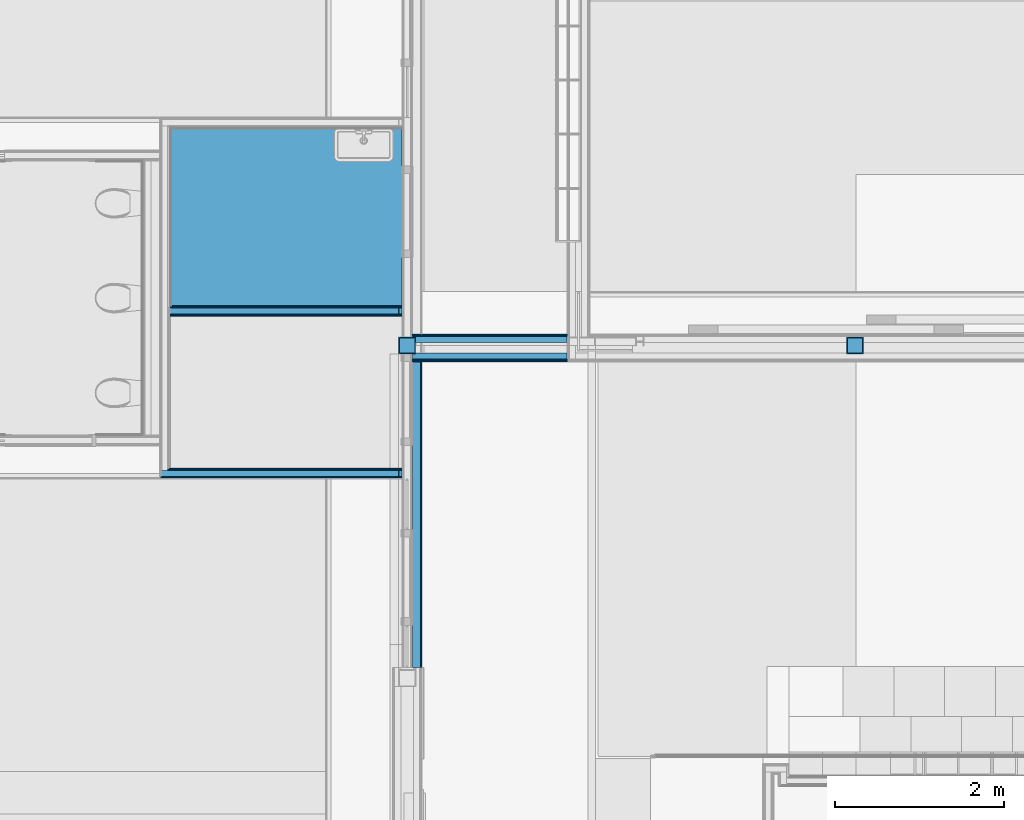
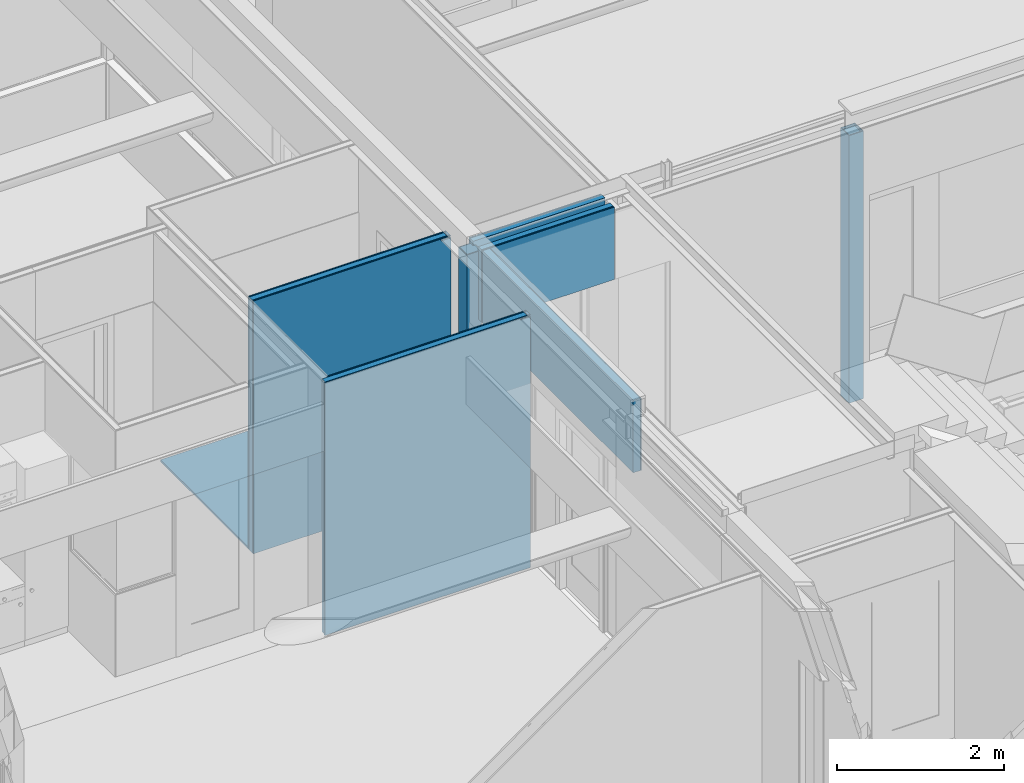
# One storey, part 56 of 165: 22 building element parts, 7 elements without a shape of their own.
"""IFC2X3 building model written with IfcOpenShell, lengths in millimetres."""

from ifc_helpers import new_model, entity, si_unit, converted_unit, derived_unit, money_unit, direction, frame, origin_with_axes, place, context, subcontext, project, spatial, faceted_brep, material, type_object, element, aggregate, save


model = new_model("IFC2X3")

# Units and contexts
model_context = context("Model", 3, precision=0.01, world=origin_with_axes(), true_north=direction((0.0, 1.0)))
body_context = subcontext(model_context, "Body", "Model", "MODEL_VIEW")
ifc_project = project(units=[si_unit("LENGTHUNIT", "METRE", prefix="MILLI"), si_unit("AREAUNIT", "SQUARE_METRE"), si_unit("VOLUMEUNIT", "CUBIC_METRE"), converted_unit("PLANEANGLEUNIT", "DEGREE", entity("IfcPlaneAngleMeasure", 0.0174532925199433), si_unit("PLANEANGLEUNIT", "RADIAN"), dimensions=[0, 0, 0, 0, 0, 0, 0]), money_unit("EUR"), converted_unit("TIMEUNIT", "Year", entity("IfcTimeMeasure", 31556926.0), si_unit("TIMEUNIT", "SECOND"), dimensions=[0, 0, 1, 0, 0, 0, 0]), si_unit("MASSUNIT", "GRAM", prefix="KILO"), si_unit("THERMODYNAMICTEMPERATUREUNIT", "DEGREE_CELSIUS"), si_unit("LUMINOUSINTENSITYUNIT", "LUMEN"), si_unit("ENERGYUNIT", "JOULE", prefix="MEGA"), derived_unit("THERMALCONDUCTANCEUNIT", [(si_unit("POWERUNIT", "WATT"), 1), (si_unit("LENGTHUNIT", "METRE"), -1), (si_unit("THERMODYNAMICTEMPERATUREUNIT", "KELVIN"), -1)]), derived_unit("SPECIFICHEATCAPACITYUNIT", [(si_unit("ENERGYUNIT", "JOULE"), 1), (si_unit("MASSUNIT", "GRAM", prefix="KILO"), -1), (si_unit("THERMODYNAMICTEMPERATUREUNIT", "KELVIN"), -1)]), derived_unit("MASSDENSITYUNIT", [(si_unit("MASSUNIT", "GRAM", prefix="KILO"), 1), (si_unit("VOLUMEUNIT", "CUBIC_METRE"), -1)])], contexts=[model_context])

# Site, building, storey
site_placement = place(None, origin_with_axes())
site = spatial("IfcSite", under=ifc_project, at=site_placement, Name="Site", CompositionType="ELEMENT")
building_placement = place(site_placement, origin_with_axes())
building = spatial("IfcBuilding", under=site, at=building_placement, Name="Naam gebouw", CompositionType="ELEMENT")
storey_placement = place(building_placement, origin_with_axes())
storey = spatial("IfcBuildingStorey", under=building, at=storey_placement, Name="Begane grond", CompositionType="ELEMENT", Elevation=0.0)

# Column, building element parts
column_type = type_object("IfcColumnType", Name="200X200X10 200 x 200", PredefinedType="COLUMN")
column_1_placement = place(storey_placement, frame((8850.000000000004, 10810.00011055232, -480.0), z_axis=(0.0, 0.0, 1.0), x_axis=(1.0, 0.0, 0.0)))
column_1 = element("IfcColumn", 1, at=column_1_placement, inside=storey, type_object=column_type, Name="28_Kolom-x", ObjectType="COLUMN")
ifc_material_1 = material(Name="Beton gewapend C")
building_element_part_1_placement = place(column_1_placement, origin_with_axes())
building_element_part_1 = element("IfcBuildingElementPart", 2, at=building_element_part_1_placement, material=ifc_material_1, Name="Beton gewapend C", context=body_context, shape_type="Brep", body=[
    faceted_brep([(-89.99999999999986, 89.99999999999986, 4050.000002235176), (89.99999999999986, 89.99999999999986, 4050.000002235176), (89.99999999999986, 89.99999999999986, 0.0), (-89.99999999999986, 89.99999999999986, 0.0), (89.99999999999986, -89.99999999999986, 4050.000002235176), (-89.99999999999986, -89.99999999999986, 4050.000002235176), (89.99999999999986, -89.99999999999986, 0.0), (-89.99999999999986, -89.99999999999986, 0.0)], [[[0, 1, 2, 3]], [[4, 1, 0, 5]], [[1, 4, 6, 2]], [[2, 6, 7, 3]], [[5, 0, 3, 7]], [[4, 5, 7, 6]]]),
    faceted_brep([(89.99999999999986, -89.99999999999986, 4075.000002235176), (89.99999999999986, 89.99999999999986, 4075.000002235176), (89.99999999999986, 89.99999999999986, 4079.999999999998), (89.99999999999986, -89.99999999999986, 4079.999999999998), (-89.99999999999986, 89.99999999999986, 4075.000002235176), (-89.99999999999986, -89.99999999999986, 4075.000002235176), (-89.99999999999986, 89.99999999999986, 4079.999999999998), (-89.99999999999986, -89.99999999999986, 4079.999999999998)], [[[0, 1, 2, 3]], [[4, 1, 0, 5]], [[1, 4, 6, 2]], [[2, 6, 7, 3]], [[5, 0, 3, 7]], [[4, 5, 7, 6]]]),
])
ifc_material_2 = material(Name="Metaal - Staal C")
building_element_part_2_placement = place(column_1_placement, origin_with_axes())
building_element_part_2 = element("IfcBuildingElementPart", 3, at=building_element_part_2_placement, material=ifc_material_2, Name="Metaal - Staal C", context=body_context, shape_type="Brep", body=[
    faceted_brep([(-99.99999999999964, -99.99999999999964, 0.0), (99.99999999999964, -99.99999999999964, 0.0), (99.99999999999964, -99.99999999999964, 4079.999999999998), (-99.99999999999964, -99.99999999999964, 4079.999999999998), (-99.99999999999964, 99.99999999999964, 0.0), (99.99999999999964, 99.99999999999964, 0.0), (-89.99999999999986, -89.99999999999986, 0.0), (89.99999999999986, -89.99999999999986, 0.0), (89.99999999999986, 89.99999999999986, 0.0), (-89.99999999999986, 89.99999999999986, 0.0), (99.99999999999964, 99.99999999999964, 4079.999999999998), (-99.99999999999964, 99.99999999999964, 4079.999999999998), (-89.99999999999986, -89.99999999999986, 4079.999999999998), (-89.99999999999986, 89.99999999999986, 4079.999999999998), (89.99999999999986, 89.99999999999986, 4079.999999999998), (89.99999999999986, -89.99999999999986, 4079.999999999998)], [[[0, 1, 2, 3]], [[0, 4, 5, 1], [6, 7, 8, 9]], [[1, 5, 10, 2]], [[3, 2, 10, 11], [12, 13, 14, 15]], [[4, 0, 3, 11]], [[5, 4, 11, 10]], [[7, 6, 12, 15]], [[8, 7, 15, 14]], [[9, 8, 14, 13]], [[6, 9, 13, 12]]]),
])
aggregate(column_1, [building_element_part_1, building_element_part_2])

# Proxy, building element parts
building_element_proxy_type_1 = type_object("IfcBuildingElementProxyType", Name="22 Metal stud 125 gips 125", PredefinedType="NOTDEFINED")
proxy_1_placement = place(storey_placement, frame((8850.000000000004, 9235.000198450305, -100.0), z_axis=(0.0, 0.0, 1.0), x_axis=(-0.9999999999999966, -8.284042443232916e-08, 0.0)))
proxy_1 = element("IfcBuildingElementProxy", 4, at=proxy_1_placement, inside=storey, type_object=building_element_proxy_type_1, Name="_Wand-x")
ifc_material_3 = material(Name="Gipsplaat")
building_element_part_3_placement = place(proxy_1_placement, origin_with_axes())
building_element_part_3 = element("IfcBuildingElementPart", 5, at=building_element_part_3_placement, material=ifc_material_3, Name="Gipsplaat", context=body_context, shape_type="Brep", body=[
    faceted_brep([(199.9999979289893, -25.00001656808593, 3695.0), (199.9999979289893, -25.00001656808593, 3670.0), (62.49999792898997, -25.0000051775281, 3670.0), (62.49999792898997, -25.0000051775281, 0.0), (2912.500400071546, -25.00024127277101, 0.0), (2912.500400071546, -25.00024127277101, 3700.0), (102.9999979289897, -25.00000853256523, 3700.0), (102.9999979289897, -25.00000853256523, 3695.0), (199.9999989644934, -12.50001656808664, 3695.0), (199.9999989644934, -12.50001656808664, 3670.0), (62.4999989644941, -12.50000517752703, 3670.0), (62.4999989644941, -12.50000517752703, 0.0), (2912.500401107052, -12.50024127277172, 0.0), (2912.500401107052, -12.50024127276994, 3700.0), (102.9999989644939, -12.50000853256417, 3700.0), (102.9999989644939, -12.50000853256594, 3695.0)], [[[0, 1, 2, 3, 4, 5, 6, 7]], [[1, 0, 8, 9]], [[10, 2, 1, 9]], [[2, 10, 11, 3]], [[12, 4, 3, 11]], [[13, 5, 4, 12]], [[14, 6, 5, 13]], [[7, 6, 14, 15]], [[0, 7, 15, 8]], [[15, 14, 13, 12, 11, 10, 9, 8]]]),
    faceted_brep([(62.4999989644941, -12.50000517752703, 3695.0), (62.49999792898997, -25.0000051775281, 3695.0), (62.49999792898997, -25.0000051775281, 3700.0), (62.4999989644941, -12.50000517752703, 3700.0), (94.99999792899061, -25.00000786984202, 3695.0), (94.99999896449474, -12.50000786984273, 3695.0), (94.99999792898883, -25.00000786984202, 3700.0), (94.99999896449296, -12.50000786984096, 3700.0)], [[[0, 1, 2, 3]], [[4, 1, 0, 5]], [[4, 6, 2, 1]], [[6, 7, 3, 2]], [[5, 0, 3, 7]], [[7, 6, 4, 5]]]),
])
building_element_part_4_placement = place(proxy_1_placement, origin_with_axes())
building_element_part_4 = element("IfcBuildingElementPart", 6, at=building_element_part_4_placement, material=ifc_material_3, Name="Gipsplaat", context=body_context, shape_type="Brep", body=[
    faceted_brep([(199.9999906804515, -112.5000165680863, 3695.0), (199.9999906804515, -112.5000165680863, 3670.0), (62.4999906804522, -112.5000051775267, 3670.0), (62.4999906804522, -112.5000051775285, 0.0), (2825.00039282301, -112.5002340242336, 0.0), (2825.00039282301, -112.5002340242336, 3700.0), (102.999990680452, -112.5000085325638, 3700.0), (102.999990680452, -112.5000085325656, 3695.0), (199.9999917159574, -100.0000165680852, 3695.0), (199.9999917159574, -100.0000165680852, 3670.0), (62.4999917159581, -100.0000051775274, 3670.0), (62.4999917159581, -100.0000051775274, 0.0), (2825.000393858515, -100.0002340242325, 0.0), (2825.000393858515, -100.0002340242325, 3700.0), (102.9999917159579, -100.0000085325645, 3700.0), (102.9999917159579, -100.0000085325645, 3695.0)], [[[0, 1, 2, 3, 4, 5, 6, 7]], [[1, 0, 8, 9]], [[10, 2, 1, 9]], [[2, 10, 11, 3]], [[12, 4, 3, 11]], [[13, 5, 4, 12]], [[14, 6, 5, 13]], [[7, 6, 14, 15]], [[0, 7, 15, 8]], [[15, 14, 13, 12, 11, 10, 9, 8]]]),
    faceted_brep([(62.4999917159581, -100.0000051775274, 3695.0), (62.4999906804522, -112.5000051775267, 3695.0), (62.4999906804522, -112.5000051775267, 3700.0), (62.4999917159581, -100.0000051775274, 3700.0), (94.99999068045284, -112.5000078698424, 3695.0), (94.99999171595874, -100.0000078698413, 3695.0), (94.99999068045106, -112.5000078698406, 3700.0), (94.99999171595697, -100.0000078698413, 3700.0)], [[[0, 1, 2, 3]], [[4, 1, 0, 5]], [[4, 6, 2, 1]], [[6, 7, 3, 2]], [[5, 0, 3, 7]], [[7, 6, 4, 5]]]),
])
building_element_part_5_placement = place(proxy_1_placement, origin_with_axes())
building_element_part_5 = element("IfcBuildingElementPart", 7, at=building_element_part_5_placement, material=ifc_material_3, Name="Gipsplaat", context=body_context, shape_type="Brep", body=[
    faceted_brep([(199.9999896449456, -125.0000165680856, 3695.0), (199.9999896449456, -125.0000165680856, 3670.0), (62.4999896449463, -125.0000051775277, 3670.0), (62.4999896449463, -125.0000051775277, 0.0), (2812.500391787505, -125.000232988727, 0.0), (2812.500391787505, -125.000232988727, 3700.0), (102.9999896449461, -125.0000085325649, 3700.0), (102.9999896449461, -125.0000085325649, 3695.0), (199.9999906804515, -112.5000165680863, 3695.0), (199.9999906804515, -112.5000165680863, 3670.0), (62.4999906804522, -112.5000051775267, 3670.0), (62.4999906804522, -112.5000051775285, 0.0), (2812.50039282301, -112.5002329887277, 0.0), (2812.50039282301, -112.5002329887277, 3700.0), (102.999990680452, -112.5000085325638, 3700.0), (102.999990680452, -112.5000085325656, 3695.0)], [[[0, 1, 2, 3, 4, 5, 6, 7]], [[1, 0, 8, 9]], [[10, 2, 1, 9]], [[2, 10, 11, 3]], [[12, 4, 3, 11]], [[13, 5, 4, 12]], [[14, 6, 5, 13]], [[7, 6, 14, 15]], [[0, 7, 15, 8]], [[15, 14, 13, 12, 11, 10, 9, 8]]]),
    faceted_brep([(62.4999906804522, -112.5000051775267, 3695.0), (62.4999896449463, -125.0000051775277, 3695.0), (62.4999896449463, -125.0000051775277, 3700.0), (62.4999906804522, -112.5000051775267, 3700.0), (94.99998964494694, -125.0000078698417, 3695.0), (94.99999068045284, -112.5000078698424, 3695.0), (94.99998964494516, -125.0000078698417, 3700.0), (94.99999068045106, -112.5000078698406, 3700.0)], [[[0, 1, 2, 3]], [[4, 1, 0, 5]], [[4, 6, 2, 1]], [[6, 7, 3, 2]], [[5, 0, 3, 7]], [[7, 6, 4, 5]]]),
])
ifc_material_4 = material(Name="ALG - LICHTE SCHEIDINGSWAND")
building_element_part_6_placement = place(proxy_1_placement, origin_with_axes())
building_element_part_6 = element("IfcBuildingElementPart", 8, at=building_element_part_6_placement, material=ifc_material_4, Name="ALG - LICHTE SCHEIDINGSWAND", context=body_context, shape_type="Brep", body=[
    faceted_brep([(199.9999917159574, -100.0000165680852, 3695.0), (199.9999917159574, -100.0000165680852, 3670.0), (62.4999917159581, -100.0000051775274, 3670.0), (62.4999917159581, -100.0000051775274, 0.0), (2900.000393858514, -100.0002402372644, 0.0), (2900.000393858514, -100.0002402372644, 3700.0), (102.9999917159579, -100.0000085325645, 3700.0), (102.9999917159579, -100.0000085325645, 3695.0), (199.9999979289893, -25.00001656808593, 3695.0), (199.9999979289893, -25.00001656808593, 3670.0), (62.49999792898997, -25.0000051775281, 3670.0), (62.49999792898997, -25.0000051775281, 0.0), (2900.000400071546, -25.0002402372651, 0.0), (2900.000400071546, -25.0002402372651, 3700.0), (102.9999979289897, -25.00000853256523, 3700.0), (102.9999979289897, -25.00000853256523, 3695.0)], [[[0, 1, 2, 3, 4, 5, 6, 7]], [[1, 0, 8, 9]], [[10, 2, 1, 9]], [[2, 10, 11, 3]], [[12, 4, 3, 11]], [[13, 5, 4, 12]], [[14, 6, 5, 13]], [[7, 6, 14, 15]], [[0, 7, 15, 8]], [[15, 14, 13, 12, 11, 10, 9, 8]]]),
    faceted_brep([(62.49999792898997, -25.0000051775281, 3695.0), (62.4999917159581, -100.0000051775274, 3695.0), (62.4999917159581, -100.0000051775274, 3700.0), (62.49999792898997, -25.0000051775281, 3700.0), (94.99999171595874, -100.0000078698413, 3695.0), (94.99999792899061, -25.00000786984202, 3695.0), (94.99999171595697, -100.0000078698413, 3700.0), (94.99999792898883, -25.00000786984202, 3700.0)], [[[0, 1, 2, 3]], [[4, 1, 0, 5]], [[4, 6, 2, 1]], [[6, 7, 3, 2]], [[5, 0, 3, 7]], [[7, 6, 4, 5]]]),
])
aggregate(proxy_1, [building_element_part_3, building_element_part_4, building_element_part_5, building_element_part_6])

proxy_2_placement = place(storey_placement, frame((5924.999598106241, 11280.00009060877, -100.0), z_axis=(0.0, 0.0, 1.0), x_axis=(1.0, 0.0, 0.0)))
proxy_2 = element("IfcBuildingElementProxy", 9, at=proxy_2_placement, inside=storey, type_object=building_element_proxy_type_1, Name="_Wand-x")
building_element_part_7_placement = place(proxy_2_placement, origin_with_axes())
building_element_part_7 = element("IfcBuildingElementPart", 10, at=building_element_part_7_placement, material=ifc_material_3, Name="Gipsplaat", context=body_context, shape_type="Brep", body=[
    faceted_brep([(2725.000401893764, 0.0, 3695.000002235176), (2725.000401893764, 0.0, 3670.000002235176), (2862.500401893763, 0.0, 3670.000002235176), (2862.500401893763, 0.0, 0.0), (124.9999997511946, 0.0, 0.0), (124.9999997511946, 0.0, 3700.0), (2822.000401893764, 0.0, 3700.0), (2822.000401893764, 0.0, 3695.000002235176), (2725.000401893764, -12.49999999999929, 3695.000002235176), (2725.000401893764, -12.49999999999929, 3670.000002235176), (2862.500401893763, -12.49999999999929, 3670.000002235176), (2862.500401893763, -12.49999999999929, 0.0), (124.9999997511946, -12.49999999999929, 0.0), (124.9999997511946, -12.49999999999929, 3700.0), (2822.000401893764, -12.49999999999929, 3700.0), (2822.000401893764, -12.49999999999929, 3695.000002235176)], [[[0, 1, 2, 3, 4, 5, 6, 7]], [[1, 0, 8, 9]], [[10, 2, 1, 9]], [[2, 10, 11, 3]], [[3, 11, 12, 4]], [[12, 13, 5, 4]], [[14, 6, 5, 13]], [[7, 6, 14, 15]], [[0, 7, 15, 8]], [[15, 14, 13, 12, 11, 10, 9, 8]]]),
    faceted_brep([(2862.500401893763, -12.49999999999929, 3695.000002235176), (2862.500401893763, 0.0, 3695.000002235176), (2862.500401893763, 0.0, 3700.0), (2862.500401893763, -12.49999999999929, 3700.0), (2830.000401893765, 0.0, 3695.000002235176), (2830.000401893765, -12.49999999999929, 3695.000002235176), (2830.000401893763, 0.0, 3700.0), (2830.000401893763, -12.49999999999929, 3700.0)], [[[0, 1, 2, 3]], [[4, 1, 0, 5]], [[4, 6, 2, 1]], [[6, 7, 3, 2]], [[5, 0, 3, 7]], [[7, 6, 4, 5]]]),
])
building_element_part_8_placement = place(proxy_2_placement, origin_with_axes())
building_element_part_8 = element("IfcBuildingElementPart", 11, at=building_element_part_8_placement, material=ifc_material_3, Name="Gipsplaat", context=body_context, shape_type="Brep", body=[
    faceted_brep([(2725.000401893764, -12.49999999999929, 3695.000002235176), (2725.000401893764, -12.49999999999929, 3670.000002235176), (2862.500401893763, -12.49999999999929, 3670.000002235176), (2862.500401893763, -12.49999999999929, 0.0), (124.9999997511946, -12.49999999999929, 0.0), (124.9999997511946, -12.49999999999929, 3700.0), (2822.000401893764, -12.49999999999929, 3700.0), (2822.000401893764, -12.49999999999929, 3695.000002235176), (2725.000401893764, -25.00000000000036, 3695.000002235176), (2725.000401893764, -25.00000000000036, 3670.000002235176), (2862.500401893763, -25.00000000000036, 3670.000002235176), (2862.500401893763, -25.00000000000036, 0.0), (124.9999997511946, -25.00000000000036, 0.0), (124.9999997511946, -25.00000000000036, 3700.0), (2822.000401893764, -25.00000000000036, 3700.0), (2822.000401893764, -25.00000000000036, 3695.000002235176)], [[[0, 1, 2, 3, 4, 5, 6, 7]], [[1, 0, 8, 9]], [[10, 2, 1, 9]], [[2, 10, 11, 3]], [[3, 11, 12, 4]], [[12, 13, 5, 4]], [[14, 6, 5, 13]], [[7, 6, 14, 15]], [[0, 7, 15, 8]], [[15, 14, 13, 12, 11, 10, 9, 8]]]),
    faceted_brep([(2862.500401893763, -25.00000000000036, 3695.000002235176), (2862.500401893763, -12.49999999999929, 3695.000002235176), (2862.500401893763, -12.49999999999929, 3700.0), (2862.500401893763, -25.00000000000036, 3700.0), (2830.000401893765, -12.49999999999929, 3695.000002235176), (2830.000401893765, -25.00000000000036, 3695.000002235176), (2830.000401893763, -12.49999999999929, 3700.0), (2830.000401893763, -25.00000000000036, 3700.0)], [[[0, 1, 2, 3]], [[4, 1, 0, 5]], [[4, 6, 2, 1]], [[6, 7, 3, 2]], [[5, 0, 3, 7]], [[7, 6, 4, 5]]]),
])
building_element_part_9_placement = place(proxy_2_placement, origin_with_axes())
building_element_part_9 = element("IfcBuildingElementPart", 12, at=building_element_part_9_placement, material=ifc_material_3, Name="Gipsplaat", context=body_context, shape_type="Brep", body=[
    faceted_brep([(2725.000401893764, -99.99999999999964, 3695.000002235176), (2725.000401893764, -99.99999999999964, 3670.000002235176), (2862.500401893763, -99.99999999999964, 3670.000002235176), (2862.500401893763, -99.99999999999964, 0.0), (124.9999997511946, -99.99999999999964, 0.0), (124.9999997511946, -99.99999999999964, 3700.0), (2822.000401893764, -99.99999999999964, 3700.0), (2822.000401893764, -99.99999999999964, 3695.000002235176), (2725.000401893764, -112.4999999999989, 3695.000002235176), (2725.000401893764, -112.4999999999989, 3670.000002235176), (2862.500401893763, -112.4999999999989, 3670.000002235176), (2862.500401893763, -112.4999999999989, 0.0), (124.9999997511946, -112.5000000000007, 0.0), (124.9999997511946, -112.4999999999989, 3700.0), (2822.000401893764, -112.4999999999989, 3700.0), (2822.000401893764, -112.4999999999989, 3695.000002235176)], [[[0, 1, 2, 3, 4, 5, 6, 7]], [[1, 0, 8, 9]], [[10, 2, 1, 9]], [[2, 10, 11, 3]], [[3, 11, 12, 4]], [[12, 13, 5, 4]], [[14, 6, 5, 13]], [[7, 6, 14, 15]], [[0, 7, 15, 8]], [[15, 14, 13, 12, 11, 10, 9, 8]]]),
    faceted_brep([(2862.500401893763, -112.4999999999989, 3695.000002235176), (2862.500401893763, -99.99999999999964, 3695.000002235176), (2862.500401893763, -99.99999999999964, 3700.0), (2862.500401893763, -112.4999999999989, 3700.0), (2830.000401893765, -99.99999999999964, 3695.000002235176), (2830.000401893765, -112.4999999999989, 3695.000002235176), (2830.000401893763, -99.99999999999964, 3700.0), (2830.000401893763, -112.4999999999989, 3700.0)], [[[0, 1, 2, 3]], [[4, 1, 0, 5]], [[4, 6, 2, 1]], [[6, 7, 3, 2]], [[5, 0, 3, 7]], [[7, 6, 4, 5]]]),
])
building_element_part_10_placement = place(proxy_2_placement, origin_with_axes())
building_element_part_10 = element("IfcBuildingElementPart", 13, at=building_element_part_10_placement, material=ifc_material_4, Name="ALG - LICHTE SCHEIDINGSWAND", context=body_context, shape_type="Brep", body=[
    faceted_brep([(2725.000401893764, -25.00000000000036, 3695.000002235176), (2725.000401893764, -25.00000000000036, 3670.000002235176), (2862.500401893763, -25.00000000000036, 3670.000002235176), (2862.500401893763, -25.00000000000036, 0.0), (124.9999997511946, -25.00000000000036, 0.0), (124.9999997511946, -25.00000000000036, 3700.0), (2822.000401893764, -25.00000000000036, 3700.0), (2822.000401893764, -25.00000000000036, 3695.000002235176), (2725.000401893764, -99.99999999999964, 3695.000002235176), (2725.000401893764, -99.99999999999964, 3670.000002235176), (2862.500401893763, -99.99999999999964, 3670.000002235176), (2862.500401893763, -99.99999999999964, 0.0), (124.9999997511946, -99.99999999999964, 0.0), (124.9999997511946, -99.99999999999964, 3700.0), (2822.000401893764, -99.99999999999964, 3700.0), (2822.000401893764, -99.99999999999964, 3695.000002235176)], [[[0, 1, 2, 3, 4, 5, 6, 7]], [[1, 0, 8, 9]], [[10, 2, 1, 9]], [[2, 10, 11, 3]], [[3, 11, 12, 4]], [[12, 13, 5, 4]], [[14, 6, 5, 13]], [[7, 6, 14, 15]], [[0, 7, 15, 8]], [[15, 14, 13, 12, 11, 10, 9, 8]]]),
    faceted_brep([(2862.500401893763, -99.99999999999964, 3695.000002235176), (2862.500401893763, -25.00000000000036, 3695.000002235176), (2862.500401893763, -25.00000000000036, 3700.0), (2862.500401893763, -99.99999999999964, 3700.0), (2830.000401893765, -25.00000000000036, 3695.000002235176), (2830.000401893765, -99.99999999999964, 3695.000002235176), (2830.000401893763, -25.00000000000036, 3700.0), (2830.000401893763, -99.99999999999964, 3700.0)], [[[0, 1, 2, 3]], [[4, 1, 0, 5]], [[4, 6, 2, 1]], [[6, 7, 3, 2]], [[5, 0, 3, 7]], [[7, 6, 4, 5]]]),
])
building_element_part_11_placement = place(proxy_2_placement, origin_with_axes())
building_element_part_11 = element("IfcBuildingElementPart", 14, at=building_element_part_11_placement, material=ifc_material_3, Name="Gipsplaat", context=body_context, shape_type="Brep", body=[
    faceted_brep([(2725.000401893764, -112.4999999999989, 3695.000002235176), (2725.000401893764, -112.4999999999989, 3670.000002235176), (2862.500401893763, -112.4999999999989, 3670.000002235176), (2862.500401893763, -112.4999999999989, 0.0), (124.9999997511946, -112.5000000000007, 0.0), (124.9999997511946, -112.4999999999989, 3700.0), (2822.000401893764, -112.4999999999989, 3700.0), (2822.000401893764, -112.4999999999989, 3695.000002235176), (2725.000401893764, -125.0, 3695.000002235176), (2725.000401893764, -125.0, 3670.000002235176), (2862.500401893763, -125.0, 3670.000002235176), (2862.500401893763, -125.0, 0.0), (124.9999997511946, -125.0, 0.0), (124.9999997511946, -125.0, 3700.0), (2822.000401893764, -125.0, 3700.0), (2822.000401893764, -125.0, 3695.000002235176)], [[[0, 1, 2, 3, 4, 5, 6, 7]], [[1, 0, 8, 9]], [[10, 2, 1, 9]], [[2, 10, 11, 3]], [[3, 11, 12, 4]], [[12, 13, 5, 4]], [[14, 6, 5, 13]], [[7, 6, 14, 15]], [[0, 7, 15, 8]], [[15, 14, 13, 12, 11, 10, 9, 8]]]),
    faceted_brep([(2862.500401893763, -125.0, 3695.000002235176), (2862.500401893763, -112.4999999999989, 3695.000002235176), (2862.500401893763, -112.4999999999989, 3700.0), (2862.500401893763, -125.0, 3700.0), (2830.000401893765, -112.4999999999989, 3695.000002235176), (2830.000401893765, -125.0, 3695.000002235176), (2830.000401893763, -112.4999999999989, 3700.0), (2830.000401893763, -125.0, 3700.0)], [[[0, 1, 2, 3]], [[4, 1, 0, 5]], [[4, 6, 2, 1]], [[6, 7, 3, 2]], [[5, 0, 3, 7]], [[7, 6, 4, 5]]]),
])
aggregate(proxy_2, [building_element_part_7, building_element_part_8, building_element_part_9, building_element_part_10, building_element_part_11])

# Column, building element parts
column_2_placement = place(storey_placement, frame((14140.00182867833, 10810.00011055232, -425.0000000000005), z_axis=(0.0, 0.0, 1.0), x_axis=(1.0, 0.0, 0.0)))
column_2 = element("IfcColumn", 15, at=column_2_placement, inside=storey, type_object=column_type, Name="28_Kolom-x", ObjectType="COLUMN")
building_element_part_12_placement = place(column_2_placement, origin_with_axes())
building_element_part_12 = element("IfcBuildingElementPart", 16, at=building_element_part_12_placement, material=ifc_material_2, Name="Metaal - Staal C", context=body_context, shape_type="Brep", body=[
    faceted_brep([(-99.99999999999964, -99.99999999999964, 0.0), (99.99999999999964, -99.99999999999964, 0.0), (99.99999999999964, -99.99999999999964, 3919.999999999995), (-99.99999999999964, -99.99999999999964, 3919.999999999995), (-99.99999999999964, 99.99999999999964, 0.0), (99.99999999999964, 99.99999999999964, 0.0), (-89.99999999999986, -89.99999999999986, 0.0), (89.99999999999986, -89.99999999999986, 0.0), (89.99999999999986, 89.99999999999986, 0.0), (-89.99999999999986, 89.99999999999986, 0.0), (99.99999999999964, 99.99999999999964, 3919.999999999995), (-99.99999999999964, 99.99999999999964, 3919.999999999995), (-89.99999999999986, -89.99999999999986, 3919.999999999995), (-89.99999999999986, 89.99999999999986, 3919.999999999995), (89.99999999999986, 89.99999999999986, 3919.999999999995), (89.99999999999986, -89.99999999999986, 3919.999999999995)], [[[0, 1, 2, 3]], [[0, 4, 5, 1], [6, 7, 8, 9]], [[1, 5, 10, 2]], [[3, 2, 10, 11], [12, 13, 14, 15]], [[4, 0, 3, 11]], [[5, 4, 11, 10]], [[7, 6, 12, 15]], [[8, 7, 15, 14]], [[9, 8, 14, 13]], [[6, 9, 13, 12]]]),
])
building_element_part_13_placement = place(column_2_placement, origin_with_axes())
building_element_part_13 = element("IfcBuildingElementPart", 17, at=building_element_part_13_placement, material=ifc_material_1, Name="Beton gewapend C", context=body_context, shape_type="Brep", body=[
    faceted_brep([(-89.99999999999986, 89.99999999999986, 3889.999999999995), (89.99999999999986, 89.99999999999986, 3889.999999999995), (89.99999999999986, 89.99999999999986, 325.0000000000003), (9.998171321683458, 89.99999999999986, 325.0000000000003), (9.998171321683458, 89.99999999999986, 65.00000000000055), (89.99999999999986, 89.99999999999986, 65.00000000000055), (89.99999999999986, 89.99999999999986, 0.0), (-89.99999999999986, 89.99999999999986, 0.0), (89.99999999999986, -89.99999999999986, 3889.999999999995), (-89.99999999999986, -89.99999999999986, 3889.999999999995), (89.99999999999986, -89.99999999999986, 325.0000000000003), (9.998171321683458, -89.99999999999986, 325.0000000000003), (9.998171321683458, -89.99999999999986, 65.00000000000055), (89.99999999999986, -89.99999999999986, 65.00000000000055), (89.99999999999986, -89.99999999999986, 0.0), (-89.99999999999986, -89.99999999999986, 0.0)], [[[0, 1, 2, 3, 4, 5, 6, 7]], [[8, 1, 0, 9]], [[1, 8, 10, 2]], [[11, 3, 2, 10]], [[12, 4, 3, 11]], [[12, 13, 5, 4]], [[6, 5, 13, 14]], [[6, 14, 15, 7]], [[9, 0, 7, 15]], [[8, 9, 15, 14, 13, 12, 11, 10]]]),
])
aggregate(column_2, [building_element_part_12, building_element_part_13])

# Proxy, building element parts
building_element_proxy_type_2 = type_object("IfcBuildingElementProxyType", Name="22 Metal stud 112.5 plafond 113", PredefinedType="NOTDEFINED")
proxy_3_placement = place(storey_placement, frame((9025.0, 10674.99881672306, 2600.0), z_axis=(0.0, 0.0, 1.0), x_axis=(0.0, -1.0, 0.0)))
proxy_3 = element("IfcBuildingElementProxy", 18, at=proxy_3_placement, inside=storey, type_object=building_element_proxy_type_2, Name="_Wand-x")
building_element_part_14_placement = place(proxy_3_placement, origin_with_axes())
building_element_part_14 = element("IfcBuildingElementPart", 19, at=building_element_part_14_placement, material=ifc_material_3, Name="Gipsplaat", context=body_context, shape_type="Brep", body=[
    faceted_brep([(3669.998816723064, -12.50000000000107, 1060.0), (3669.998816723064, 0.0, 1060.0), (42.4999999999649, 0.0, 1060.0), (42.4999999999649, -12.49999999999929, 1060.0), (3669.998816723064, -12.50000000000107, 0.0), (3669.998816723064, 0.0, 0.0), (42.4999999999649, 0.0, 0.0), (42.4999999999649, -12.49999999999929, 0.0)], [[[0, 1, 2, 3]], [[0, 4, 5, 1]], [[1, 5, 6, 2]], [[3, 2, 6, 7]], [[4, 0, 3, 7]], [[5, 4, 7, 6]]]),
])
building_element_part_15_placement = place(proxy_3_placement, origin_with_axes())
building_element_part_15 = element("IfcBuildingElementPart", 20, at=building_element_part_15_placement, material=ifc_material_4, Name="ALG - LICHTE SCHEIDINGSWAND", context=body_context, shape_type="Brep", body=[
    faceted_brep([(3669.998816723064, -112.5000000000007, 1060.0), (3669.998816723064, -12.50000000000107, 1060.0), (54.99999999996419, -12.49999999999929, 1060.0), (54.99999999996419, -112.5000000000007, 1060.0), (3669.998816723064, -112.5000000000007, 0.0), (3669.998816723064, -12.50000000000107, 0.0), (54.99999999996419, -12.49999999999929, 0.0), (54.99999999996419, -112.5000000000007, 0.0)], [[[0, 1, 2, 3]], [[0, 4, 5, 1]], [[1, 5, 6, 2]], [[3, 2, 6, 7]], [[4, 0, 3, 7]], [[5, 4, 7, 6]]]),
])
aggregate(proxy_3, [building_element_part_14, building_element_part_15])

building_element_proxy_type_3 = type_object("IfcBuildingElementProxyType", Name="22 Metal stud 325 325", PredefinedType="NOTDEFINED")
proxy_4_placement = place(storey_placement, frame((10740.00006286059, 10619.9988167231, 2600.0), z_axis=(0.0, 0.0, 1.0), x_axis=(-1.0, 0.0, 0.0)))
proxy_4 = element("IfcBuildingElementProxy", 21, at=proxy_4_placement, inside=storey, type_object=building_element_proxy_type_3, Name="_Wand-x")
building_element_part_16_placement = place(proxy_4_placement, origin_with_axes())
building_element_part_16 = element("IfcBuildingElementPart", 22, at=building_element_part_16_placement, material=ifc_material_3, Name="Gipsplaat", context=body_context, shape_type="Brep", body=[
    faceted_brep([(1715.000062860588, 0.0, 1060.0), (0.0, 0.0, 1060.0), (0.0, -12.49999999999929, 1060.0), (1715.000062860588, -12.49999999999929, 1060.0), (1715.000062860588, 0.0, 0.0), (0.0, 0.0, 0.0), (0.0, -12.49999999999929, 0.0), (1715.000062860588, -12.49999999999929, 0.0)], [[[0, 1, 2, 3]], [[4, 5, 1, 0]], [[2, 1, 5, 6]], [[3, 2, 6, 7]], [[3, 7, 4, 0]], [[7, 6, 5, 4]]]),
    faceted_brep([(1827.500000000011, -12.49999999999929, 1060.0), (1827.500000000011, 0.0, 1060.0), (1727.500062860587, 0.0, 1060.0), (1727.500062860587, -12.49999999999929, 1060.0), (1827.500000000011, -12.49999999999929, 0.0), (1827.500000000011, 0.0, 0.0), (1727.500062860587, 0.0, 0.0), (1727.500062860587, -12.49999999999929, 0.0)], [[[0, 1, 2, 3]], [[0, 4, 5, 1]], [[1, 5, 6, 2]], [[3, 2, 6, 7]], [[4, 0, 3, 7]], [[5, 4, 7, 6]]]),
])
building_element_part_17_placement = place(proxy_4_placement, origin_with_axes())
building_element_part_17 = element("IfcBuildingElementPart", 23, at=building_element_part_17_placement, material=ifc_material_3, Name="Gipsplaat", context=body_context, shape_type="Brep", body=[
    faceted_brep([(1827.500000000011, -25.00000000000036, 1060.0), (1827.500000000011, -12.49999999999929, 1060.0), (0.0, -12.49999999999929, 1060.0), (0.0, -25.00000000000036, 1060.0), (1827.500000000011, -25.00000000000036, 0.0), (1827.500000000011, -12.49999999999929, 0.0), (0.0, -12.49999999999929, 0.0), (0.0, -25.00000000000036, 0.0)], [[[0, 1, 2, 3]], [[0, 4, 5, 1]], [[1, 5, 6, 2]], [[3, 2, 6, 7]], [[4, 0, 3, 7]], [[5, 4, 7, 6]]]),
])
building_element_part_18_placement = place(proxy_4_placement, origin_with_axes())
building_element_part_18 = element("IfcBuildingElementPart", 24, at=building_element_part_18_placement, material=ifc_material_4, Name="ALG - LICHTE SCHEIDINGSWAND", context=body_context, shape_type="Brep", body=[
    faceted_brep([(1827.500000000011, -99.99999999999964, 1060.0), (1827.500000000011, -25.00000000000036, 1060.0), (0.0, -25.00000000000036, 1060.0), (0.0, -99.99999999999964, 1060.0), (1827.500000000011, -99.99999999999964, 0.0), (1827.500000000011, -25.00000000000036, 0.0), (0.0, -25.00000000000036, 0.0), (0.0, -99.99999999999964, 0.0)], [[[0, 1, 2, 3]], [[0, 4, 5, 1]], [[1, 5, 6, 2]], [[3, 2, 6, 7]], [[4, 0, 3, 7]], [[5, 4, 7, 6]]]),
])
building_element_part_19_placement = place(proxy_4_placement, origin_with_axes())
building_element_part_19 = element("IfcBuildingElementPart", 25, at=building_element_part_19_placement, material=ifc_material_4, Name="ALG - LICHTE SCHEIDINGSWAND", context=body_context, shape_type="Brep", body=[
    faceted_brep([(1827.500000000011, -300.0000000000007, 1060.0), (1827.500000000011, -224.9999999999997, 1060.0), (0.0, -224.9999999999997, 1060.0), (0.0, -300.0000000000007, 1060.0), (1827.500000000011, -300.0000000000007, 0.0), (1827.500000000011, -224.9999999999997, 0.0), (0.0, -224.9999999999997, 0.0), (0.0, -300.0000000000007, 0.0)], [[[0, 1, 2, 3]], [[0, 4, 5, 1]], [[1, 5, 6, 2]], [[3, 2, 6, 7]], [[4, 0, 3, 7]], [[5, 4, 7, 6]]]),
])
building_element_part_20_placement = place(proxy_4_placement, origin_with_axes())
building_element_part_20 = element("IfcBuildingElementPart", 26, at=building_element_part_20_placement, material=ifc_material_3, Name="Gipsplaat", context=body_context, shape_type="Brep", body=[
    faceted_brep([(1715.000062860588, -312.5, 1060.0), (0.0, -312.5, 1060.0), (0.0, -324.9999999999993, 1060.0), (1715.000062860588, -324.9999999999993, 1060.0), (1715.000062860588, -312.5, 0.0), (0.0, -312.5, 0.0), (0.0, -324.9999999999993, 0.0), (1715.000062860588, -324.9999999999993, 0.0)], [[[0, 1, 2, 3]], [[4, 5, 1, 0]], [[2, 1, 5, 6]], [[3, 2, 6, 7]], [[3, 7, 4, 0]], [[7, 6, 5, 4]]]),
    faceted_brep([(1827.500000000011, -324.9999999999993, 1060.0), (1827.500000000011, -312.5, 1060.0), (1727.500062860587, -312.5, 1060.0), (1727.500062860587, -324.9999999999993, 1060.0), (1827.500000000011, -324.9999999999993, 0.0), (1827.500000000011, -312.5, 0.0), (1727.500062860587, -312.5, 0.0), (1727.500062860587, -324.9999999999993, 0.0)], [[[0, 1, 2, 3]], [[0, 4, 5, 1]], [[1, 5, 6, 2]], [[3, 2, 6, 7]], [[4, 0, 3, 7]], [[5, 4, 7, 6]]]),
])
building_element_part_21_placement = place(proxy_4_placement, origin_with_axes())
building_element_part_21 = element("IfcBuildingElementPart", 27, at=building_element_part_21_placement, material=ifc_material_3, Name="Gipsplaat", context=body_context, shape_type="Brep", body=[
    faceted_brep([(1827.500000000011, -312.5, 1060.0), (1827.500000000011, -300.0000000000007, 1060.0), (0.0, -300.0000000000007, 1060.0), (0.0, -312.5, 1060.0), (1827.500000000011, -312.5, 0.0), (1827.500000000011, -300.0000000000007, 0.0), (0.0, -300.0000000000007, 0.0), (0.0, -312.5, 0.0)], [[[0, 1, 2, 3]], [[0, 4, 5, 1]], [[1, 5, 6, 2]], [[3, 2, 6, 7]], [[4, 0, 3, 7]], [[5, 4, 7, 6]]]),
])
aggregate(proxy_4, [building_element_part_16, building_element_part_17, building_element_part_18, building_element_part_19, building_element_part_20, building_element_part_21])

# Slab, building element part
slab_type = type_object("IfcSlabType", Name="43 Zwevende dekvloer 100", PredefinedType="NOTDEFINED")
slab_placement = place(storey_placement, frame((6049.999597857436, 13380.0002642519, 0.0), z_axis=(0.0, 0.0, 1.0), x_axis=(1.0, 0.0, 0.0)))
slab = element("IfcSlab", 28, at=slab_placement, inside=storey, type_object=slab_type, Name="_Vloer-x", PredefinedType="NOTDEFINED")
ifc_material_5 = material(Name="Isolatie - XPS zwevende dekvloer")
building_element_part_22_placement = place(slab_placement, origin_with_axes())
building_element_part_22 = element("IfcBuildingElementPart", 29, at=building_element_part_22_placement, material=ifc_material_5, Name="Isolatie - XPS zwevende dekvloer", context=body_context, shape_type="Brep", body=[
    faceted_brep([(0.0, 0.0, -100.0), (0.0, -2100.000173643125, -100.0), (0.0, -2100.000173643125, -70.0), (0.0, 0.0, -70.0), (2737.500402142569, 0.0, -100.0), (2737.500402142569, -450.0002267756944, -100.0), (2862.500402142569, -450.0002267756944, -100.0), (2862.500402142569, -1530.000226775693, -100.0), (2737.500402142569, -1530.000226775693, -100.0), (2737.500402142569, -2100.000173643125, -100.0), (2737.500402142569, -2100.000173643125, -70.0), (2737.500402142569, -1530.000226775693, -70.0), (2862.500402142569, -1530.000226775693, -70.0), (2862.500402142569, -450.0002267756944, -70.0), (2737.500402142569, -450.0002267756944, -70.0), (2737.500402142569, 0.0, -70.0)], [[[0, 1, 2, 3]], [[0, 4, 5, 6, 7, 8, 9, 1]], [[1, 9, 10, 2]], [[3, 2, 10, 11, 12, 13, 14, 15]], [[4, 0, 3, 15]], [[5, 4, 15, 14]], [[6, 5, 14, 13]], [[7, 6, 13, 12]], [[8, 7, 12, 11]], [[9, 8, 11, 10]]]),
])
aggregate(slab, [building_element_part_22])

save(model, "model.ifc")
